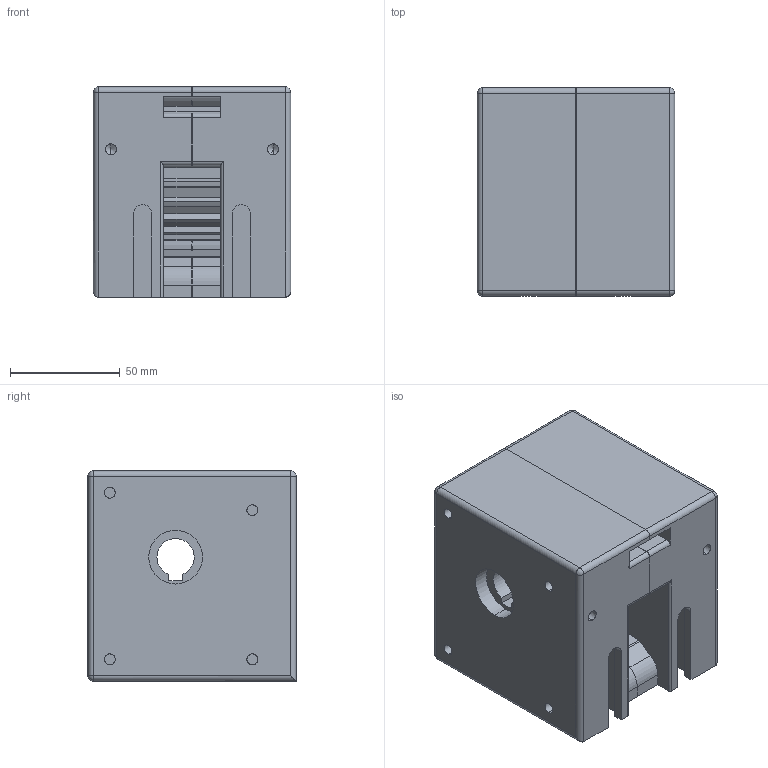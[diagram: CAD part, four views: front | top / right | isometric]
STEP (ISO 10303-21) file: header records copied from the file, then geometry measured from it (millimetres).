
FILE_DESCRIPTION (( 'STEP AP214' ), '1' );
FILE_NAME ('1.8012 Hammashihnan vetopää GL.STEP', '2025-09-18T07:04:12', ( '' ), ( '' ), 'SwSTEP 2.0', 'SolidWorks 2025', '' );
FILE_SCHEMA (( 'AUTOMOTIVE_DESIGN' ));
Length unit declared in the file: millimetre
Products named in the file (1): 1.8012 Hammashihnan vetopää GL
Bounding box: 90 x 95 x 96 mm (x, y, z)
Volume: 638661.7 mm3; surface area: 158417 mm2
Topology: 11 solids, 11 shells, 582 faces, 1390 edges, 840 vertices
Faces by surface type: cylinder 206, plane 206, cone 88, bspline 52, torus 24, sphere 6
Entity records: 24801 total; most frequent: CARTESIAN_POINT 4691, DIRECTION 3004, ORIENTED_EDGE 2728, EDGE_CURVE 1364, AXIS2_PLACEMENT_3D 1151, VERTEX_POINT 840, VECTOR 702, LINE 702
